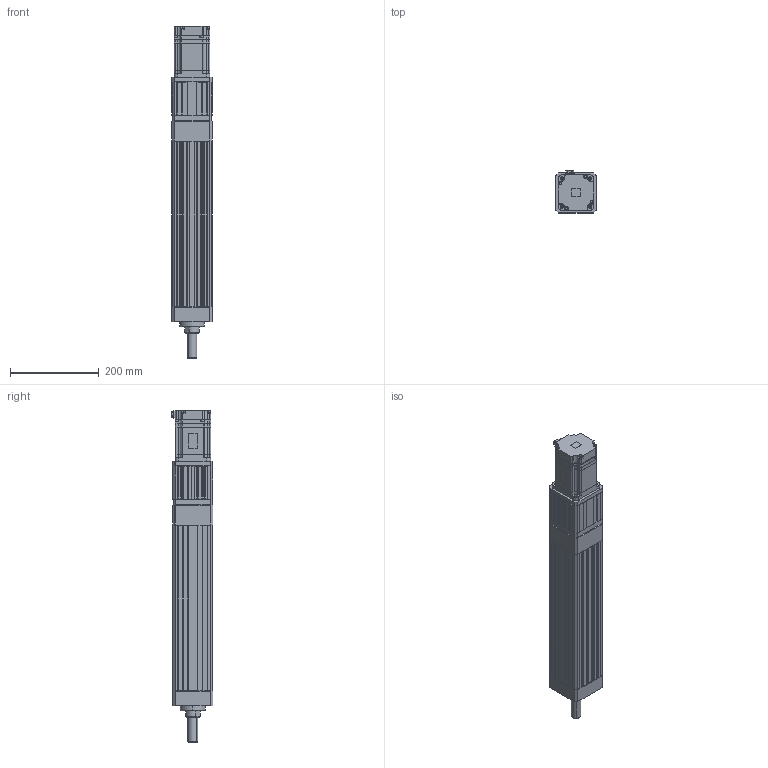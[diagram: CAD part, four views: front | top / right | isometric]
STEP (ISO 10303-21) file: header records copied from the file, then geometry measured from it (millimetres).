
FILE_DESCRIPTION (( 'STEP AP203' ), '1' );
FILE_NAME ('ANS090R-S250-05(10)(20)-W75-M.STEP', '2019-03-02T10:55:59', ( 'user' ), ( '' ), 'SwSTEP 2.0', 'SolidWorks 2013', '' );
FILE_SCHEMA (( 'CONFIG_CONTROL_DESIGN' ));
Length unit declared in the file: millimetre
Products named in the file (4): SGMJV_08A_A21; ANS090 ROD ST250-M; ANS090R-S250-05(10)(20)-W75-M; ANS090R S250 VER2
Assembly tree (3 placements, depth 2):
  ANS090R-S250-05(10)(20)-W75-M
    ANS090R S250 VER2
    SGMJV_08A_A21
    ANS090 ROD ST250-M
Bounding box: 90 x 93.8 x 746.1 mm (x, y, z)
Volume: 3116978.7 mm3; surface area: 518229.9 mm2
Topology: 3 solids, 3 shells, 1438 faces, 3878 edges, 2504 vertices
Faces by surface type: plane 930, cylinder 404, cone 100, bspline 4
Entity records: 45220 total; most frequent: CARTESIAN_POINT 8496, ORIENTED_EDGE 7708, DIRECTION 7414, EDGE_CURVE 3854, LINE 2890, VECTOR 2890, VERTEX_POINT 2504, AXIS2_PLACEMENT_3D 2262
